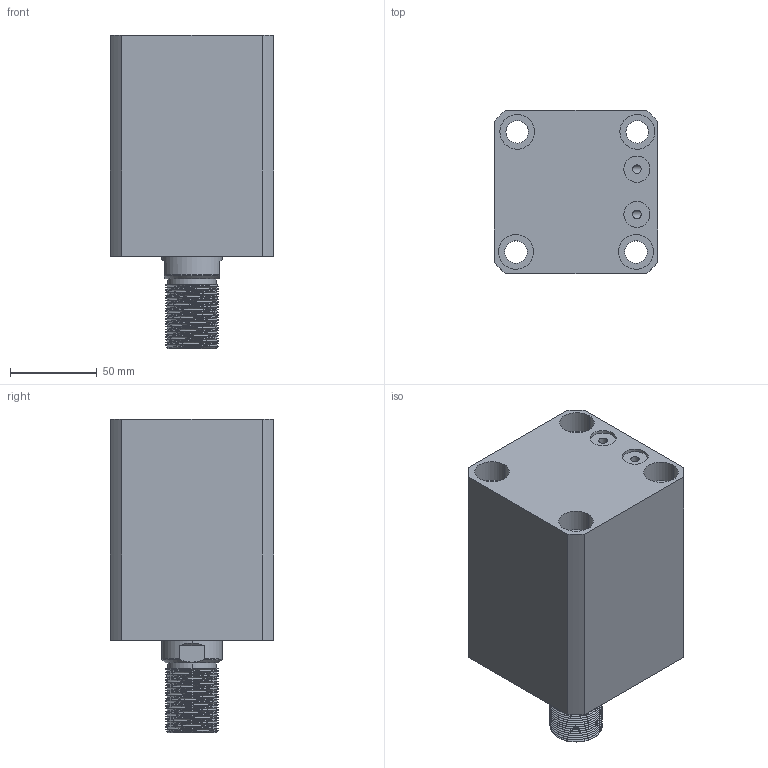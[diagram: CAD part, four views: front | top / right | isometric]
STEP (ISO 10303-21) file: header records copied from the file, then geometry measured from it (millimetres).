
FILE_DESCRIPTION (( 'STEP AP214' ), '1' );
FILE_NAME ('chtb-sdmb63x60w_asm.STEP', '2018-05-18T11:54:22', ( 'Windows' ), ( 'Microsoft' ), 'SwSTEP 2.0', 'SolidWorks 2015', '' );
FILE_SCHEMA (( 'AUTOMOTIVE_DESIGN' ));
Length unit declared in the file: millimetre
Products named in the file (4): CHTB-SDMB63X60NBT; CHTB63X60WHSG; CHTB-63QG; chtb-sdmb63x60w_asm
Assembly tree (3 placements, depth 2):
  chtb-sdmb63x60w_asm
    CHTB-63QG
    CHTB63X60WHSG
    CHTB-SDMB63X60NBT
Bounding box: 94 x 94 x 180 mm (x, y, z)
Volume: 932803.8 mm3; surface area: 158573 mm2
Topology: 3 solids, 3 shells, 218 faces, 628 edges, 427 vertices
Faces by surface type: cylinder 156, plane 33, bspline 14, cone 9, torus 6
Entity records: 22278 total; most frequent: CARTESIAN_POINT 17042, ORIENTED_EDGE 1248, DIRECTION 869, EDGE_CURVE 624, VERTEX_POINT 427, AXIS2_PLACEMENT_3D 339, EDGE_LOOP 251, ADVANCED_FACE 218
